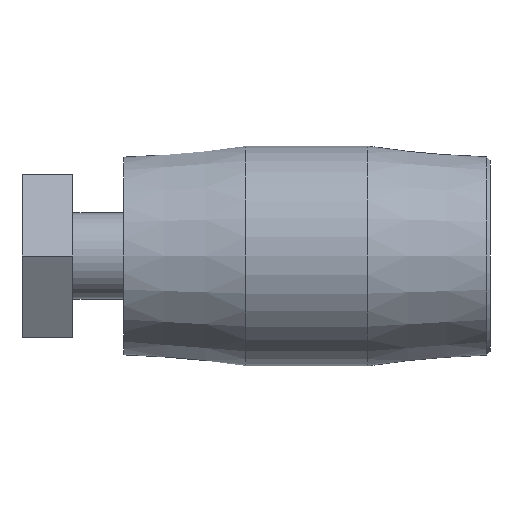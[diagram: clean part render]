
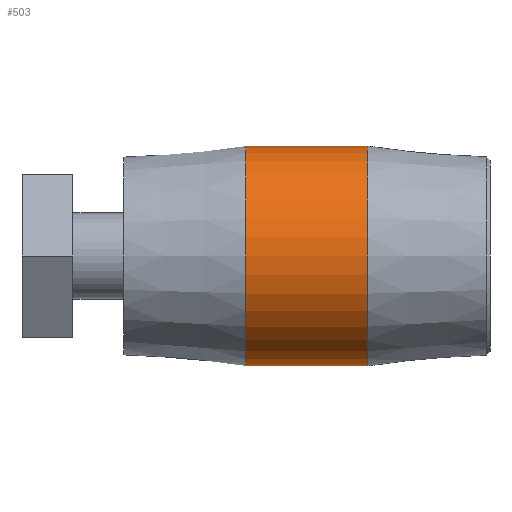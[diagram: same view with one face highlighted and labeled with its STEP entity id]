
A CAD part, front view. The second image highlights one B-rep face of the part: STEP entity #503.
In plain terms, the highlighted cylindrical face has radius 27 mm (diameter 54 mm), a full revolution.
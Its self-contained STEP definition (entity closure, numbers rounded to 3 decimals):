
#15=CYLINDRICAL_SURFACE('',#569,27.);
#47=CIRCLE('',#563,27.);
#49=CIRCLE('',#567,27.);
#87=FACE_OUTER_BOUND('',#126,.T.);
#126=EDGE_LOOP('',(#385,#386,#387,#388));
#184=LINE('',#915,#218);
#218=VECTOR('',#675,27.);
#246=VERTEX_POINT('',#826);
#250=VERTEX_POINT('',#871);
#298=EDGE_CURVE('',#246,#246,#47,.T.);
#302=EDGE_CURVE('',#250,#250,#49,.T.);
#307=EDGE_CURVE('',#246,#250,#184,.T.);
#385=ORIENTED_EDGE('',*,*,#298,.F.);
#386=ORIENTED_EDGE('',*,*,#307,.T.);
#387=ORIENTED_EDGE('',*,*,#302,.T.);
#388=ORIENTED_EDGE('',*,*,#307,.F.);
#503=ADVANCED_FACE('',(#87),#15,.T.);
#563=AXIS2_PLACEMENT_3D('',#828,#660,#661);
#567=AXIS2_PLACEMENT_3D('',#872,#668,#669);
#569=AXIS2_PLACEMENT_3D('',#914,#673,#674);
#660=DIRECTION('center_axis',(1.,0.,0.));
#661=DIRECTION('ref_axis',(0.,0.,-1.));
#668=DIRECTION('center_axis',(1.,0.,0.));
#669=DIRECTION('ref_axis',(0.,0.,-1.));
#673=DIRECTION('center_axis',(1.,0.,0.));
#674=DIRECTION('ref_axis',(0.,1.,0.));
#675=DIRECTION('',(-1.,0.,0.));
#826=CARTESIAN_POINT('',(15.,-27.,0.));
#828=CARTESIAN_POINT('Origin',(15.,0.,0.));
#871=CARTESIAN_POINT('',(-15.,-27.,0.));
#872=CARTESIAN_POINT('Origin',(-15.,0.,0.));
#914=CARTESIAN_POINT('Origin',(0.,0.,
0.));
#915=CARTESIAN_POINT('',(0.,-27.,0.));
